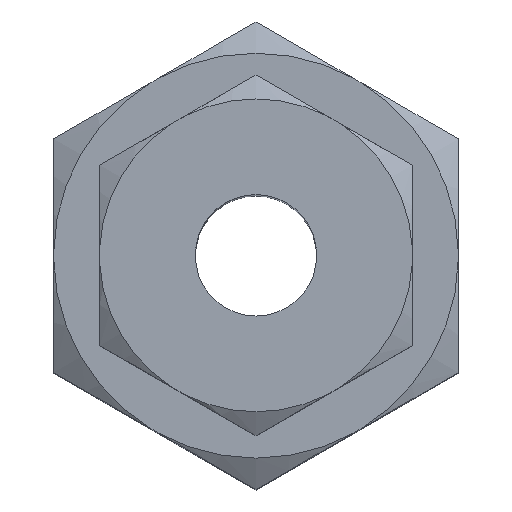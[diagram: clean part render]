
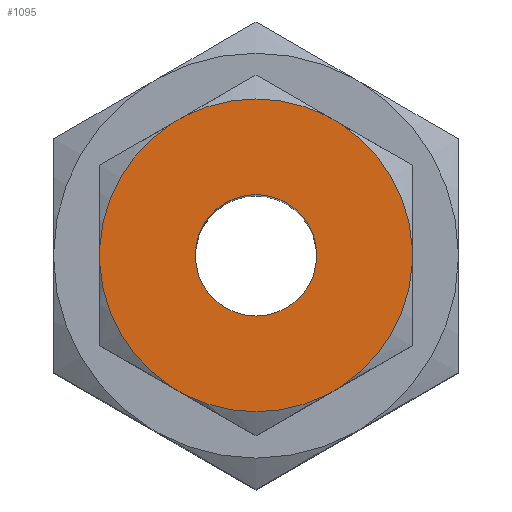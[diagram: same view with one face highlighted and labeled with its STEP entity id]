
A CAD part, top view. The second image highlights one B-rep face of the part: STEP entity #1095.
In plain terms, the highlighted planar face has unit normal (0, 0, 1).
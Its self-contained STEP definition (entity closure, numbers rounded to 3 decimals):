
#13 = ORIENTED_EDGE ( 'NONE', *, *, #188, .F. ) ;
#20 = ORIENTED_EDGE ( 'NONE', *, *, #219, .F. ) ;
#30 = CARTESIAN_POINT ( 'NONE',  ( 8.487, 0.469, 29. ) ) ;
#35 = CARTESIAN_POINT ( 'NONE',  ( -3.837, 7.585, 29. ) ) ;
#66 = CARTESIAN_POINT ( 'NONE',  ( 0., 0., 29. ) ) ;
#75 = VECTOR ( 'NONE', #708, 1000. ) ;
#85 = FACE_OUTER_BOUND ( 'NONE', #492, .T. ) ;
#86 = EDGE_CURVE ( 'NONE', #619, #941, #813, .T. ) ;
#88 = DIRECTION ( 'NONE',  ( 0., 0., -1. ) ) ;
#100 = CARTESIAN_POINT ( 'NONE',  ( 0., 0., 29. ) ) ;
#109 = ORIENTED_EDGE ( 'NONE', *, *, #327, .T. ) ;
#115 = CARTESIAN_POINT ( 'NONE',  ( 0., 0., 29. ) ) ;
#126 = EDGE_CURVE ( 'NONE', #638, #842, #1028, .T. ) ;
#136 = EDGE_LOOP ( 'NONE', ( #882 ) ) ;
#137 = CIRCLE ( 'NONE', #948, 3.3 ) ;
#170 = DIRECTION ( 'NONE',  ( 0., 0., 1. ) ) ;
#187 = LINE ( 'NONE', #361, #458 ) ;
#188 = EDGE_CURVE ( 'NONE', #439, #277, #436, .T. ) ;
#214 = LINE ( 'NONE', #665, #265 ) ;
#219 = EDGE_CURVE ( 'NONE', #228, #918, #1072, .T. ) ;
#228 = VERTEX_POINT ( 'NONE', #1053 ) ;
#232 = ORIENTED_EDGE ( 'NONE', *, *, #1115, .T. ) ;
#233 = AXIS2_PLACEMENT_3D ( 'NONE', #269, #635, #437 ) ;
#251 = AXIS2_PLACEMENT_3D ( 'NONE', #862, #711, #621 ) ;
#256 = LINE ( 'NONE', #345, #75 ) ;
#262 = ORIENTED_EDGE ( 'NONE', *, *, #293, .F. ) ;
#265 = VECTOR ( 'NONE', #381, 1000. ) ;
#269 = CARTESIAN_POINT ( 'NONE',  ( 0., 0., 29. ) ) ;
#277 = VERTEX_POINT ( 'NONE', #700 ) ;
#284 = DIRECTION ( 'NONE',  ( -0.866, 0.5, 0. ) ) ;
#285 = CIRCLE ( 'NONE', #855, 8.5 ) ;
#286 = CIRCLE ( 'NONE', #233, 8.5 ) ;
#293 = EDGE_CURVE ( 'NONE', #581, #1132, #285, .T. ) ;
#299 = AXIS2_PLACEMENT_3D ( 'NONE', #1041, #489, #857 ) ;
#327 = EDGE_CURVE ( 'NONE', #581, #918, #187, .T. ) ;
#335 = EDGE_CURVE ( 'NONE', #930, #930, #137, .T. ) ;
#345 = CARTESIAN_POINT ( 'NONE',  ( 8.487, -4.9, 29. ) ) ;
#347 = ORIENTED_EDGE ( 'NONE', *, *, #86, .F. ) ;
#361 = CARTESIAN_POINT ( 'NONE',  ( -8.487, 4.9, 29. ) ) ;
#363 = DIRECTION ( 'NONE',  ( 0., 0., 1. ) ) ;
#375 = DIRECTION ( 'NONE',  ( 0., 1., 0. ) ) ;
#381 = DIRECTION ( 'NONE',  ( 0.866, 0.5, 0. ) ) ;
#414 = CARTESIAN_POINT ( 'NONE',  ( 4.65, -7.115, 29. ) ) ;
#429 = DIRECTION ( 'NONE',  ( 0., -1., 0. ) ) ;
#430 = EDGE_CURVE ( 'NONE', #852, #277, #1118, .T. ) ;
#436 = CIRCLE ( 'NONE', #251, 8.5 ) ;
#437 = DIRECTION ( 'NONE',  ( 0., 1., 0. ) ) ;
#439 = VERTEX_POINT ( 'NONE', #35 ) ;
#443 = EDGE_CURVE ( 'NONE', #638, #941, #214, .T. ) ;
#458 = VECTOR ( 'NONE', #628, 1000. ) ;
#466 = CARTESIAN_POINT ( 'NONE',  ( 4.65, 7.115, 29. ) ) ;
#477 = VECTOR ( 'NONE', #284, 1000. ) ;
#485 = VERTEX_POINT ( 'NONE', #30 ) ;
#489 = DIRECTION ( 'NONE',  ( 0., 0., -1. ) ) ;
#492 = EDGE_LOOP ( 'NONE', ( #1096, #13, #606, #262, #109, #20, #858, #674, #835, #347, #232, #617 ) ) ;
#508 = DIRECTION ( 'NONE',  ( 0., 0., -1. ) ) ;
#519 = CARTESIAN_POINT ( 'NONE',  ( 0., 9.8, 29. ) ) ;
#520 = AXIS2_PLACEMENT_3D ( 'NONE', #115, #922, #840 ) ;
#536 = CARTESIAN_POINT ( 'NONE',  ( -4.65, 7.115, 29. ) ) ;
#539 = DIRECTION ( 'NONE',  ( 0., -1., 0. ) ) ;
#562 = AXIS2_PLACEMENT_3D ( 'NONE', #601, #508, #616 ) ;
#581 = VERTEX_POINT ( 'NONE', #600 ) ;
#583 = DIRECTION ( 'NONE',  ( 0.866, -0.5, 0. ) ) ;
#600 = CARTESIAN_POINT ( 'NONE',  ( -8.487, 0.469, 29. ) ) ;
#601 = CARTESIAN_POINT ( 'NONE',  ( 0., 0., 29. ) ) ;
#606 = ORIENTED_EDGE ( 'NONE', *, *, #1034, .T. ) ;
#616 = DIRECTION ( 'NONE',  ( 0., 1., 0. ) ) ;
#617 = ORIENTED_EDGE ( 'NONE', *, *, #1158, .F. ) ;
#618 = FACE_BOUND ( 'NONE', #136, .T. ) ;
#619 = VERTEX_POINT ( 'NONE', #1051 ) ;
#621 = DIRECTION ( 'NONE',  ( 0., 1., 0. ) ) ;
#628 = DIRECTION ( 'NONE',  ( 0., -1., 0. ) ) ;
#635 = DIRECTION ( 'NONE',  ( 0., 0., -1. ) ) ;
#637 = VECTOR ( 'NONE', #583, 1000. ) ;
#638 = VERTEX_POINT ( 'NONE', #879 ) ;
#642 = CARTESIAN_POINT ( 'NONE',  ( 0., 0., 29. ) ) ;
#657 = CARTESIAN_POINT ( 'NONE',  ( 8.487, 4.9, 29. ) ) ;
#665 = CARTESIAN_POINT ( 'NONE',  ( 0., -9.8, 29. ) ) ;
#674 = ORIENTED_EDGE ( 'NONE', *, *, #126, .F. ) ;
#700 = CARTESIAN_POINT ( 'NONE',  ( 3.837, 7.585, 29. ) ) ;
#706 = AXIS2_PLACEMENT_3D ( 'NONE', #66, #363, #429 ) ;
#708 = DIRECTION ( 'NONE',  ( 0., 1., 0. ) ) ;
#711 = DIRECTION ( 'NONE',  ( 0., 0., -1. ) ) ;
#764 = CARTESIAN_POINT ( 'NONE',  ( -3.837, -7.585, 29. ) ) ;
#813 = CIRCLE ( 'NONE', #299, 8.5 ) ;
#816 = PLANE ( 'NONE',  #706 ) ;
#829 = CARTESIAN_POINT ( 'NONE',  ( 0., -3.3, 29. ) ) ;
#835 = ORIENTED_EDGE ( 'NONE', *, *, #443, .T. ) ;
#840 = DIRECTION ( 'NONE',  ( 0., 1., 0. ) ) ;
#842 = VERTEX_POINT ( 'NONE', #764 ) ;
#852 = VERTEX_POINT ( 'NONE', #466 ) ;
#855 = AXIS2_PLACEMENT_3D ( 'NONE', #100, #88, #375 ) ;
#857 = DIRECTION ( 'NONE',  ( 0., 1., 0. ) ) ;
#858 = ORIENTED_EDGE ( 'NONE', *, *, #887, .T. ) ;
#862 = CARTESIAN_POINT ( 'NONE',  ( 0., 0., 29. ) ) ;
#879 = CARTESIAN_POINT ( 'NONE',  ( 3.837, -7.585, 29. ) ) ;
#882 = ORIENTED_EDGE ( 'NONE', *, *, #335, .F. ) ;
#887 = EDGE_CURVE ( 'NONE', #228, #842, #937, .T. ) ;
#918 = VERTEX_POINT ( 'NONE', #1063 ) ;
#922 = DIRECTION ( 'NONE',  ( 0., 0., -1. ) ) ;
#930 = VERTEX_POINT ( 'NONE', #829 ) ;
#937 = LINE ( 'NONE', #1110, #637 ) ;
#941 = VERTEX_POINT ( 'NONE', #414 ) ;
#948 = AXIS2_PLACEMENT_3D ( 'NONE', #642, #170, #539 ) ;
#963 = LINE ( 'NONE', #519, #1054 ) ;
#1028 = CIRCLE ( 'NONE', #520, 8.5 ) ;
#1034 = EDGE_CURVE ( 'NONE', #439, #1132, #963, .T. ) ;
#1041 = CARTESIAN_POINT ( 'NONE',  ( 0., 0., 29. ) ) ;
#1051 = CARTESIAN_POINT ( 'NONE',  ( 8.487, -0.469, 29. ) ) ;
#1053 = CARTESIAN_POINT ( 'NONE',  ( -4.65, -7.115, 29. ) ) ;
#1054 = VECTOR ( 'NONE', #1097, 1000. ) ;
#1063 = CARTESIAN_POINT ( 'NONE',  ( -8.487, -0.469, 29. ) ) ;
#1072 = CIRCLE ( 'NONE', #562, 8.5 ) ;
#1095 = ADVANCED_FACE ( 'NONE', ( #618, #85 ), #816, .T. ) ;
#1096 = ORIENTED_EDGE ( 'NONE', *, *, #430, .T. ) ;
#1097 = DIRECTION ( 'NONE',  ( -0.866, -0.5, 0. ) ) ;
#1110 = CARTESIAN_POINT ( 'NONE',  ( -8.487, -4.9, 29. ) ) ;
#1115 = EDGE_CURVE ( 'NONE', #619, #485, #256, .T. ) ;
#1118 = LINE ( 'NONE', #657, #477 ) ;
#1132 = VERTEX_POINT ( 'NONE', #536 ) ;
#1158 = EDGE_CURVE ( 'NONE', #852, #485, #286, .T. ) ;
